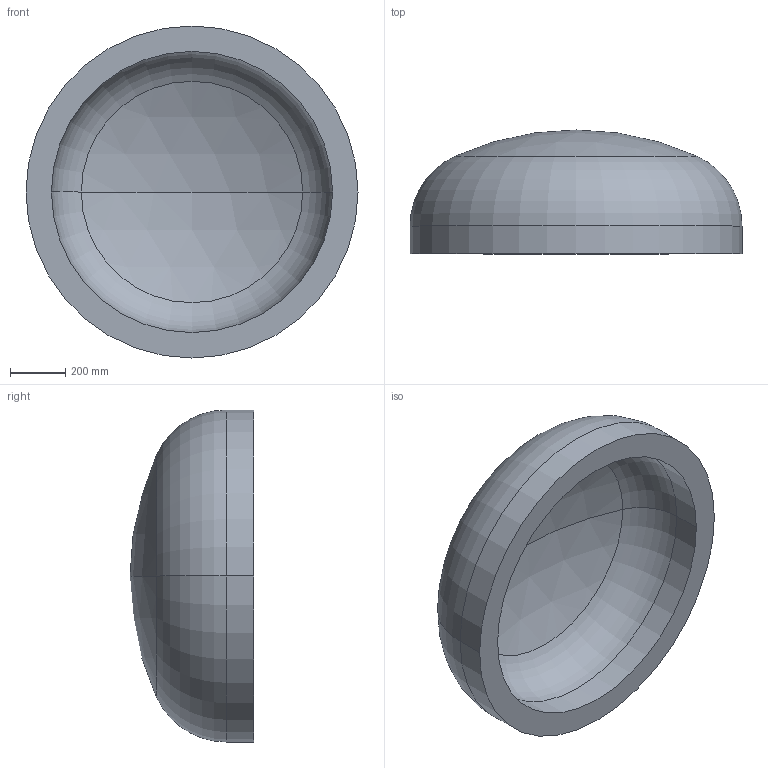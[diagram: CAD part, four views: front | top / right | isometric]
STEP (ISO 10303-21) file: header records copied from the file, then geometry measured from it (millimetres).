
FILE_DESCRIPTION (( 'STEP AP203' ), '1' );
FILE_NAME ('DIN 28013 Korbbogenform_-_Boden DIN 28013 - 1200 x 100 - I - s=92.step', '2016-07-01T09:36:41', ( '' ), ( '' ), 'SwSTEP 2.0', 'SolidWorks 2013', '' );
FILE_SCHEMA (( 'CONFIG_CONTROL_DESIGN' ));
Length unit declared in the file: millimetre
Products named in the file (1): DIN 28013 Korbbogenform_-_Boden DIN 28013 - 1200 x 100 - I - s=92
Bounding box: 1200 x 447.52 x 1200 mm (x, y, z)
Volume: 162908197.6 mm3; surface area: 3879450.2 mm2
Topology: 1 solids, 1 shells, 13 faces, 24 edges, 14 vertices
Faces by surface type: torus 4, cylinder 4, sphere 4, plane 1
Entity records: 407 total; most frequent: DIRECTION 72, CARTESIAN_POINT 52, ORIENTED_EDGE 48, AXIS2_PLACEMENT_3D 34, EDGE_CURVE 24, CIRCLE 20, EDGE_LOOP 14, VERTEX_POINT 14
